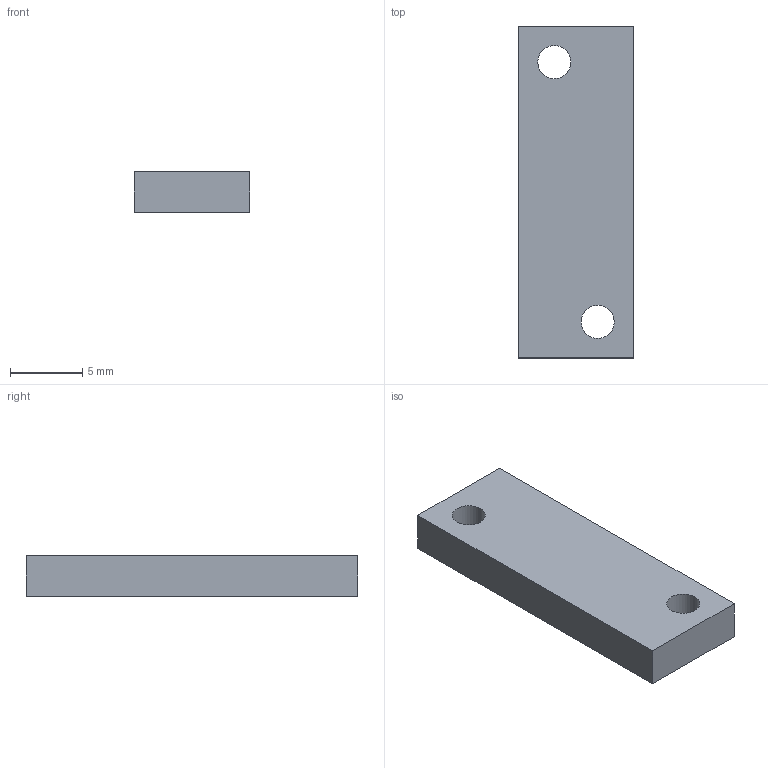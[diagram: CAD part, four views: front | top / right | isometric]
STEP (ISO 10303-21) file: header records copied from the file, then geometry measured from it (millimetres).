
FILE_DESCRIPTION(('Open CASCADE Model'),'2;1');
FILE_NAME('DEH_arm','2026-11-05T16:12:41',('Author'),('Open CASCADE'), 'Open CASCADE STEP processor 7.9','build123d','Unknown');
FILE_SCHEMA(('AUTOMOTIVE_DESIGN { 1 0 10303 214 1 1 1 1 }'));
Length unit declared in the file: millimetre
Products named in the file (2): DEH_arm
Assembly tree (1 placements, depth 2):
  DEH_arm
    DEH_arm
Bounding box: 8 x 23 x 2.8 mm (x, y, z)
Volume: 491.9 mm3; surface area: 565.4 mm2
Topology: 1 solids, 1 shells, 8 faces, 18 edges, 12 vertices
Faces by surface type: plane 6, cylinder 2
Full cylindrical faces by diameter (mm): 2.3 x2
Entity records: 520 total; most frequent: DIRECTION 78, CARTESIAN_POINT 76, LINE 46, VECTOR 46, ORIENTED_EDGE 36, PCURVE 36, DEFINITIONAL_REPRESENTATION 36, EDGE_CURVE 18
